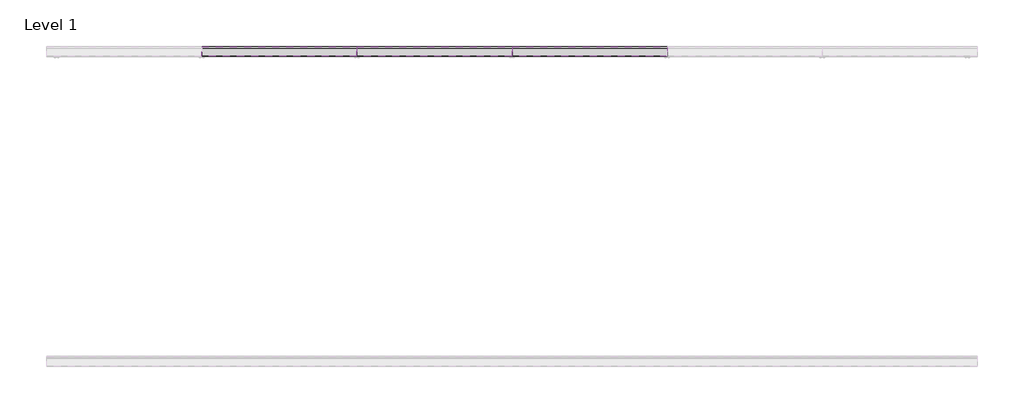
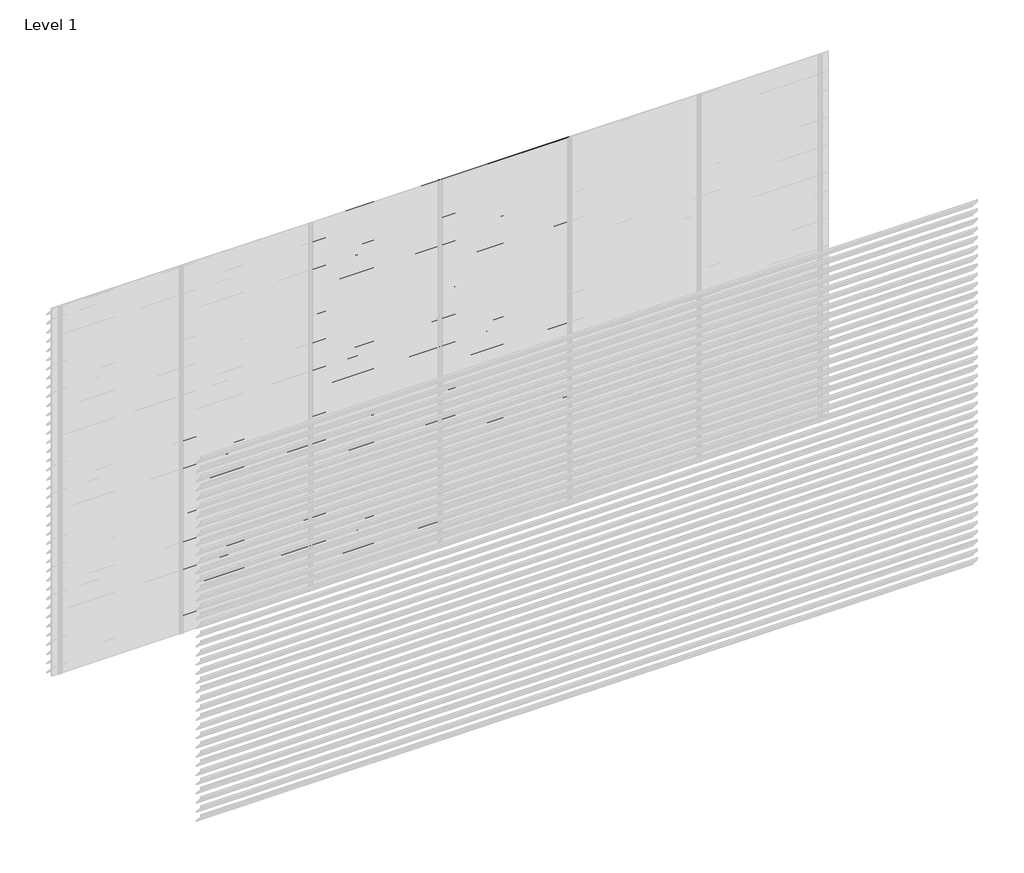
# One storey, part 34 of 35: 91 proxies.
"""IFC4 building model written with IfcOpenShell, lengths in millimetres."""

from ifc_helpers import new_model, si_unit, frame, origin, place, context, project, spatial, polyline, outline, extrude, element, save

model = new_model("IFC4")

# Units and contexts
model_context = context("Model", 3, world=origin())
ifc_project = project(units=[si_unit("LENGTHUNIT", "METRE", prefix="MILLI")], contexts=[model_context])

# Site, building, storey
site = spatial("IfcSite", under=ifc_project)
building = spatial("IfcBuilding", under=site)
storey = spatial("IfcBuildingStorey", under=building, Name="Level 1", Elevation=0.0)

# Proxies
placement = place(None, origin())
element("IfcBuildingElementProxy", 1, Name="Wall Sweeps", at=placement, inside=storey, context=model_context, shape_type="SweptSolid", body=[
    extrude(outline(polyline([(3.5, 1575.0), (3.5, 1560.5463701), (65.5, 1488.9330051), (65.5, 1485.4), (64.0, 1485.4), (64.0, 1488.3738975), (2.0, 1559.9872626), (2.0, 1575.0), (3.5, 1575.0)])), frame((1000.0, 0.0, 0.0), z_axis=(1.0, 0.0, 0.0), x_axis=(0.0, 1.0, 0.0)), (0.0, 0.0, 1.0), 1000.0),
])
element("IfcBuildingElementProxy", 2, Name="Wall Sweeps", at=placement, inside=storey, context=model_context, shape_type="SweptSolid", body=[
    extrude(outline(polyline([(3.5, 1500.0), (3.5, 1485.5463701), (65.5, 1413.9330051), (65.5, 1410.4), (64.0, 1410.4), (64.0, 1413.3738975), (2.0, 1484.9872626), (2.0, 1500.0), (3.5, 1500.0)])), frame((1000.0, 0.0, 0.0), z_axis=(1.0, 0.0, 0.0), x_axis=(0.0, 1.0, 0.0)), (0.0, 0.0, 1.0), 1000.0),
])
element("IfcBuildingElementProxy", 3, Name="Wall Sweeps", at=placement, inside=storey, context=model_context, shape_type="SweptSolid", body=[
    extrude(outline(polyline([(3.5, 1425.0), (3.5, 1410.5463701), (65.5, 1338.9330051), (65.5, 1335.4), (64.0, 1335.4), (64.0, 1338.3738975), (2.0, 1409.9872626), (2.0, 1425.0), (3.5, 1425.0)])), frame((1000.0, 0.0, 0.0), z_axis=(1.0, 0.0, 0.0), x_axis=(0.0, 1.0, 0.0)), (0.0, 0.0, 1.0), 1000.0),
])
element("IfcBuildingElementProxy", 4, Name="Wall Sweeps", at=placement, inside=storey, context=model_context, shape_type="SweptSolid", body=[
    extrude(outline(polyline([(3.5, 1350.0), (3.5, 1335.5463701), (65.5, 1263.9330051), (65.5, 1260.4), (64.0, 1260.4), (64.0, 1263.3738975), (2.0, 1334.9872626), (2.0, 1350.0), (3.5, 1350.0)])), frame((1000.0, 0.0, 0.0), z_axis=(1.0, 0.0, 0.0), x_axis=(0.0, 1.0, 0.0)), (0.0, 0.0, 1.0), 1000.0),
])
element("IfcBuildingElementProxy", 5, Name="Wall Sweeps", at=placement, inside=storey, context=model_context, shape_type="SweptSolid", body=[
    extrude(outline(polyline([(3.5, 1275.0), (3.5, 1260.5463701), (65.5, 1188.9330051), (65.5, 1185.4), (64.0, 1185.4), (64.0, 1188.3738975), (2.0, 1259.9872626), (2.0, 1275.0), (3.5, 1275.0)])), frame((1000.0, 0.0, 0.0), z_axis=(1.0, 0.0, 0.0), x_axis=(0.0, 1.0, 0.0)), (0.0, 0.0, 1.0), 1000.0),
])
element("IfcBuildingElementProxy", 6, Name="Wall Sweeps", at=placement, inside=storey, context=model_context, shape_type="SweptSolid", body=[
    extrude(outline(polyline([(3.5, 1200.0), (3.5, 1185.5463701), (65.5, 1113.9330051), (65.5, 1110.4), (64.0, 1110.4), (64.0, 1113.3738975), (2.0, 1184.9872626), (2.0, 1200.0), (3.5, 1200.0)])), frame((1000.0, 0.0, 0.0), z_axis=(1.0, 0.0, 0.0), x_axis=(0.0, 1.0, 0.0)), (0.0, 0.0, 1.0), 1000.0),
])
element("IfcBuildingElementProxy", 7, Name="Wall Sweeps", at=placement, inside=storey, context=model_context, shape_type="SweptSolid", body=[
    extrude(outline(polyline([(3.5, 1125.0), (3.5, 1110.5463701), (65.5, 1038.9330051), (65.5, 1035.4), (64.0, 1035.4), (64.0, 1038.3738975), (2.0, 1109.9872626), (2.0, 1125.0), (3.5, 1125.0)])), frame((1000.0, 0.0, 0.0), z_axis=(1.0, 0.0, 0.0), x_axis=(0.0, 1.0, 0.0)), (0.0, 0.0, 1.0), 1000.0),
])
element("IfcBuildingElementProxy", 8, Name="Wall Sweeps", at=placement, inside=storey, context=model_context, shape_type="SweptSolid", body=[
    extrude(outline(polyline([(3.5, 1050.0), (3.5, 1035.5463701), (65.5, 963.9330051), (65.5, 960.4), (64.0, 960.4), (64.0, 963.3738975), (2.0, 1034.9872626), (2.0, 1050.0), (3.5, 1050.0)])), frame((1000.0, 0.0, 0.0), z_axis=(1.0, 0.0, 0.0), x_axis=(0.0, 1.0, 0.0)), (0.0, 0.0, 1.0), 1000.0),
])
element("IfcBuildingElementProxy", 9, Name="Wall Sweeps", at=placement, inside=storey, context=model_context, shape_type="SweptSolid", body=[
    extrude(outline(polyline([(3.5, 975.0), (3.5, 960.5463701), (65.5, 888.9330051), (65.5, 885.4), (64.0, 885.4), (64.0, 888.3738975), (2.0, 959.9872626), (2.0, 975.0), (3.5, 975.0)])), frame((1000.0, 0.0, 0.0), z_axis=(1.0, 0.0, 0.0), x_axis=(0.0, 1.0, 0.0)), (0.0, 0.0, 1.0), 1000.0),
])
element("IfcBuildingElementProxy", 10, Name="Wall Sweeps", at=placement, inside=storey, context=model_context, shape_type="SweptSolid", body=[
    extrude(outline(polyline([(3.5, 900.0), (3.5, 885.5463701), (65.5, 813.9330051), (65.5, 810.4), (64.0, 810.4), (64.0, 813.3738975), (2.0, 884.9872626), (2.0, 900.0), (3.5, 900.0)])), frame((1000.0, 0.0, 0.0), z_axis=(1.0, 0.0, 0.0), x_axis=(0.0, 1.0, 0.0)), (0.0, 0.0, 1.0), 1000.0),
])
element("IfcBuildingElementProxy", 11, Name="Wall Sweeps", at=placement, inside=storey, context=model_context, shape_type="SweptSolid", body=[
    extrude(outline(polyline([(3.5, 825.0), (3.5, 810.5463701), (65.5, 738.9330051), (65.5, 735.4), (64.0, 735.4), (64.0, 738.3738975), (2.0, 809.9872626), (2.0, 825.0), (3.5, 825.0)])), frame((1000.0, 0.0, 0.0), z_axis=(1.0, 0.0, 0.0), x_axis=(0.0, 1.0, 0.0)), (0.0, 0.0, 1.0), 1000.0),
])
element("IfcBuildingElementProxy", 12, Name="Wall Sweeps", at=placement, inside=storey, context=model_context, shape_type="SweptSolid", body=[
    extrude(outline(polyline([(3.5, 750.0), (3.5, 735.5463701), (65.5, 663.9330051), (65.5, 660.4), (64.0, 660.4), (64.0, 663.3738975), (2.0, 734.9872626), (2.0, 750.0), (3.5, 750.0)])), frame((1000.0, 0.0, 0.0), z_axis=(1.0, 0.0, 0.0), x_axis=(0.0, 1.0, 0.0)), (0.0, 0.0, 1.0), 1000.0),
])
element("IfcBuildingElementProxy", 13, Name="Wall Sweeps", at=placement, inside=storey, context=model_context, shape_type="SweptSolid", body=[
    extrude(outline(polyline([(3.5, 675.0), (3.5, 660.5463701), (65.5, 588.9330051), (65.5, 585.4), (64.0, 585.4), (64.0, 588.3738975), (2.0, 659.9872626), (2.0, 675.0), (3.5, 675.0)])), frame((1000.0, 0.0, 0.0), z_axis=(1.0, 0.0, 0.0), x_axis=(0.0, 1.0, 0.0)), (0.0, 0.0, 1.0), 1000.0),
])
element("IfcBuildingElementProxy", 14, Name="Wall Sweeps", at=placement, inside=storey, context=model_context, shape_type="SweptSolid", body=[
    extrude(outline(polyline([(3.5, 600.0), (3.5, 585.5463701), (65.5, 513.9330051), (65.5, 510.4), (64.0, 510.4), (64.0, 513.3738975), (2.0, 584.9872626), (2.0, 600.0), (3.5, 600.0)])), frame((1000.0, 0.0, 0.0), z_axis=(1.0, 0.0, 0.0), x_axis=(0.0, 1.0, 0.0)), (0.0, 0.0, 1.0), 1000.0),
])
element("IfcBuildingElementProxy", 15, Name="Wall Sweeps", at=placement, inside=storey, context=model_context, shape_type="SweptSolid", body=[
    extrude(outline(polyline([(3.5, 525.0), (3.5, 510.5463701), (65.5, 438.9330051), (65.5, 435.4), (64.0, 435.4), (64.0, 438.3738975), (2.0, 509.9872626), (2.0, 525.0), (3.5, 525.0)])), frame((1000.0, 0.0, 0.0), z_axis=(1.0, 0.0, 0.0), x_axis=(0.0, 1.0, 0.0)), (0.0, 0.0, 1.0), 1000.0),
])
element("IfcBuildingElementProxy", 16, Name="Wall Sweeps", at=placement, inside=storey, context=model_context, shape_type="SweptSolid", body=[
    extrude(outline(polyline([(3.5, 450.0), (3.5, 435.5463701), (65.5, 363.9330051), (65.5, 360.4), (64.0, 360.4), (64.0, 363.3738975), (2.0, 434.9872626), (2.0, 450.0), (3.5, 450.0)])), frame((1000.0, 0.0, 0.0), z_axis=(1.0, 0.0, 0.0), x_axis=(0.0, 1.0, 0.0)), (0.0, 0.0, 1.0), 1000.0),
])
element("IfcBuildingElementProxy", 17, Name="Wall Sweeps", at=placement, inside=storey, context=model_context, shape_type="SweptSolid", body=[
    extrude(outline(polyline([(3.5, 375.0), (3.5, 360.5463701), (65.5, 288.9330051), (65.5, 285.4), (64.0, 285.4), (64.0, 288.3738975), (2.0, 359.9872626), (2.0, 375.0), (3.5, 375.0)])), frame((1000.0, 0.0, 0.0), z_axis=(1.0, 0.0, 0.0), x_axis=(0.0, 1.0, 0.0)), (0.0, 0.0, 1.0), 1000.0),
])
element("IfcBuildingElementProxy", 18, Name="Wall Sweeps", at=placement, inside=storey, context=model_context, shape_type="SweptSolid", body=[
    extrude(outline(polyline([(3.5, 300.0), (3.5, 285.5463701), (65.5, 213.9330051), (65.5, 210.4), (64.0, 210.4), (64.0, 213.3738975), (2.0, 284.9872626), (2.0, 300.0), (3.5, 300.0)])), frame((1000.0, 0.0, 0.0), z_axis=(1.0, 0.0, 0.0), x_axis=(0.0, 1.0, 0.0)), (0.0, 0.0, 1.0), 1000.0),
])
element("IfcBuildingElementProxy", 19, Name="Wall Sweeps", at=placement, inside=storey, context=model_context, shape_type="SweptSolid", body=[
    extrude(outline(polyline([(3.5, 225.0), (3.5, 210.5463701), (65.5, 138.9330051), (65.5, 135.4), (64.0, 135.4), (64.0, 138.3738975), (2.0, 209.9872626), (2.0, 225.0), (3.5, 225.0)])), frame((1000.0, 0.0, 0.0), z_axis=(1.0, 0.0, 0.0), x_axis=(0.0, 1.0, 0.0)), (0.0, 0.0, 1.0), 1000.0),
])
element("IfcBuildingElementProxy", 20, Name="Wall Sweeps", at=placement, inside=storey, context=model_context, shape_type="SweptSolid", body=[
    extrude(outline(polyline([(3.5, 150.0), (3.5, 135.5463701), (65.5, 63.9330051), (65.5, 60.4), (64.0, 60.4), (64.0, 63.3738975), (2.0, 134.9872626), (2.0, 150.0), (3.5, 150.0)])), frame((1000.0, 0.0, 0.0), z_axis=(1.0, 0.0, 0.0), x_axis=(0.0, 1.0, 0.0)), (0.0, 0.0, 1.0), 1000.0),
])
element("IfcBuildingElementProxy", 21, Name="Wall Sweeps", at=placement, inside=storey, context=model_context, shape_type="SweptSolid", body=[
    extrude(outline(polyline([(3.5, 75.0), (3.5, 60.5463701), (65.5, -11.0669949), (65.5, -14.6), (64.0, -14.6), (64.0, -11.6261025), (2.0, 59.9872626), (2.0, 75.0), (3.5, 75.0)])), frame((1000.0, 0.0, 0.0), z_axis=(1.0, 0.0, 0.0), x_axis=(0.0, 1.0, 0.0)), (0.0, 0.0, 1.0), 1000.0),
])
element("IfcBuildingElementProxy", 22, Name="Wall Sweeps", at=placement, inside=storey, context=model_context, shape_type="SweptSolid", body=[
    extrude(outline(polyline([(3.5, 3000.0), (3.5, 2985.5463701), (65.5, 2913.9330051), (65.5, 2910.4), (64.0, 2910.4), (64.0, 2913.3738975), (2.0, 2984.9872626), (2.0, 3000.0), (3.5, 3000.0)])), frame((2000.0, 0.0, 0.0), z_axis=(1.0, 0.0, 0.0), x_axis=(0.0, 1.0, 0.0)), (0.0, 0.0, 1.0), 1000.0),
])
element("IfcBuildingElementProxy", 23, Name="Wall Sweeps", at=placement, inside=storey, context=model_context, shape_type="SweptSolid", body=[
    extrude(outline(polyline([(3.5, 2925.0), (3.5, 2910.5463701), (65.5, 2838.9330051), (65.5, 2835.4), (64.0, 2835.4), (64.0, 2838.3738975), (2.0, 2909.9872626), (2.0, 2925.0), (3.5, 2925.0)])), frame((2000.0, 0.0, 0.0), z_axis=(1.0, 0.0, 0.0), x_axis=(0.0, 1.0, 0.0)), (0.0, 0.0, 1.0), 1000.0),
])
element("IfcBuildingElementProxy", 24, Name="Wall Sweeps", at=placement, inside=storey, context=model_context, shape_type="SweptSolid", body=[
    extrude(outline(polyline([(3.5, 2850.0), (3.5, 2835.5463701), (65.5, 2763.9330051), (65.5, 2760.4), (64.0, 2760.4), (64.0, 2763.3738975), (2.0, 2834.9872626), (2.0, 2850.0), (3.5, 2850.0)])), frame((2000.0, 0.0, 0.0), z_axis=(1.0, 0.0, 0.0), x_axis=(0.0, 1.0, 0.0)), (0.0, 0.0, 1.0), 1000.0),
])
element("IfcBuildingElementProxy", 25, Name="Wall Sweeps", at=placement, inside=storey, context=model_context, shape_type="SweptSolid", body=[
    extrude(outline(polyline([(3.5, 2775.0), (3.5, 2760.5463701), (65.5, 2688.9330051), (65.5, 2685.4), (64.0, 2685.4), (64.0, 2688.3738975), (2.0, 2759.9872626), (2.0, 2775.0), (3.5, 2775.0)])), frame((2000.0, 0.0, 0.0), z_axis=(1.0, 0.0, 0.0), x_axis=(0.0, 1.0, 0.0)), (0.0, 0.0, 1.0), 1000.0),
])
element("IfcBuildingElementProxy", 26, Name="Wall Sweeps", at=placement, inside=storey, context=model_context, shape_type="SweptSolid", body=[
    extrude(outline(polyline([(3.5, 2700.0), (3.5, 2685.5463701), (65.5, 2613.9330051), (65.5, 2610.4), (64.0, 2610.4), (64.0, 2613.3738975), (2.0, 2684.9872626), (2.0, 2700.0), (3.5, 2700.0)])), frame((2000.0, 0.0, 0.0), z_axis=(1.0, 0.0, 0.0), x_axis=(0.0, 1.0, 0.0)), (0.0, 0.0, 1.0), 1000.0),
])
element("IfcBuildingElementProxy", 27, Name="Wall Sweeps", at=placement, inside=storey, context=model_context, shape_type="SweptSolid", body=[
    extrude(outline(polyline([(3.5, 2625.0), (3.5, 2610.5463701), (65.5, 2538.9330051), (65.5, 2535.4), (64.0, 2535.4), (64.0, 2538.3738975), (2.0, 2609.9872626), (2.0, 2625.0), (3.5, 2625.0)])), frame((2000.0, 0.0, 0.0), z_axis=(1.0, 0.0, 0.0), x_axis=(0.0, 1.0, 0.0)), (0.0, 0.0, 1.0), 1000.0),
])
element("IfcBuildingElementProxy", 28, Name="Wall Sweeps", at=placement, inside=storey, context=model_context, shape_type="SweptSolid", body=[
    extrude(outline(polyline([(3.5, 2550.0), (3.5, 2535.5463701), (65.5, 2463.9330051), (65.5, 2460.4), (64.0, 2460.4), (64.0, 2463.3738975), (2.0, 2534.9872626), (2.0, 2550.0), (3.5, 2550.0)])), frame((2000.0, 0.0, 0.0), z_axis=(1.0, 0.0, 0.0), x_axis=(0.0, 1.0, 0.0)), (0.0, 0.0, 1.0), 1000.0),
])
element("IfcBuildingElementProxy", 29, Name="Wall Sweeps", at=placement, inside=storey, context=model_context, shape_type="SweptSolid", body=[
    extrude(outline(polyline([(3.5, 2475.0), (3.5, 2460.5463701), (65.5, 2388.9330051), (65.5, 2385.4), (64.0, 2385.4), (64.0, 2388.3738975), (2.0, 2459.9872626), (2.0, 2475.0), (3.5, 2475.0)])), frame((2000.0, 0.0, 0.0), z_axis=(1.0, 0.0, 0.0), x_axis=(0.0, 1.0, 0.0)), (0.0, 0.0, 1.0), 1000.0),
])
element("IfcBuildingElementProxy", 30, Name="Wall Sweeps", at=placement, inside=storey, context=model_context, shape_type="SweptSolid", body=[
    extrude(outline(polyline([(3.5, 2400.0), (3.5, 2385.5463701), (65.5, 2313.9330051), (65.5, 2310.4), (64.0, 2310.4), (64.0, 2313.3738975), (2.0, 2384.9872626), (2.0, 2400.0), (3.5, 2400.0)])), frame((2000.0, 0.0, 0.0), z_axis=(1.0, 0.0, 0.0), x_axis=(0.0, 1.0, 0.0)), (0.0, 0.0, 1.0), 1000.0),
])
element("IfcBuildingElementProxy", 31, Name="Wall Sweeps", at=placement, inside=storey, context=model_context, shape_type="SweptSolid", body=[
    extrude(outline(polyline([(3.5, 2325.0), (3.5, 2310.5463701), (65.5, 2238.9330051), (65.5, 2235.4), (64.0, 2235.4), (64.0, 2238.3738975), (2.0, 2309.9872626), (2.0, 2325.0), (3.5, 2325.0)])), frame((2000.0, 0.0, 0.0), z_axis=(1.0, 0.0, 0.0), x_axis=(0.0, 1.0, 0.0)), (0.0, 0.0, 1.0), 1000.0),
])
element("IfcBuildingElementProxy", 32, Name="Wall Sweeps", at=placement, inside=storey, context=model_context, shape_type="SweptSolid", body=[
    extrude(outline(polyline([(3.5, 2250.0), (3.5, 2235.5463701), (65.5, 2163.9330051), (65.5, 2160.4), (64.0, 2160.4), (64.0, 2163.3738975), (2.0, 2234.9872626), (2.0, 2250.0), (3.5, 2250.0)])), frame((2000.0, 0.0, 0.0), z_axis=(1.0, 0.0, 0.0), x_axis=(0.0, 1.0, 0.0)), (0.0, 0.0, 1.0), 1000.0),
])
element("IfcBuildingElementProxy", 33, Name="Wall Sweeps", at=placement, inside=storey, context=model_context, shape_type="SweptSolid", body=[
    extrude(outline(polyline([(3.5, 2175.0), (3.5, 2160.5463701), (65.5, 2088.9330051), (65.5, 2085.4), (64.0, 2085.4), (64.0, 2088.3738975), (2.0, 2159.9872626), (2.0, 2175.0), (3.5, 2175.0)])), frame((2000.0, 0.0, 0.0), z_axis=(1.0, 0.0, 0.0), x_axis=(0.0, 1.0, 0.0)), (0.0, 0.0, 1.0), 1000.0),
])
element("IfcBuildingElementProxy", 34, Name="Wall Sweeps", at=placement, inside=storey, context=model_context, shape_type="SweptSolid", body=[
    extrude(outline(polyline([(3.5, 2100.0), (3.5, 2085.5463701), (65.5, 2013.9330051), (65.5, 2010.4), (64.0, 2010.4), (64.0, 2013.3738975), (2.0, 2084.9872626), (2.0, 2100.0), (3.5, 2100.0)])), frame((2000.0, 0.0, 0.0), z_axis=(1.0, 0.0, 0.0), x_axis=(0.0, 1.0, 0.0)), (0.0, 0.0, 1.0), 1000.0),
])
element("IfcBuildingElementProxy", 35, Name="Wall Sweeps", at=placement, inside=storey, context=model_context, shape_type="SweptSolid", body=[
    extrude(outline(polyline([(3.5, 2025.0), (3.5, 2010.5463701), (65.5, 1938.9330051), (65.5, 1935.4), (64.0, 1935.4), (64.0, 1938.3738975), (2.0, 2009.9872626), (2.0, 2025.0), (3.5, 2025.0)])), frame((2000.0, 0.0, 0.0), z_axis=(1.0, 0.0, 0.0), x_axis=(0.0, 1.0, 0.0)), (0.0, 0.0, 1.0), 1000.0),
])
element("IfcBuildingElementProxy", 36, Name="Wall Sweeps", at=placement, inside=storey, context=model_context, shape_type="SweptSolid", body=[
    extrude(outline(polyline([(3.5, 1950.0), (3.5, 1935.5463701), (65.5, 1863.9330051), (65.5, 1860.4), (64.0, 1860.4), (64.0, 1863.3738975), (2.0, 1934.9872626), (2.0, 1950.0), (3.5, 1950.0)])), frame((2000.0, 0.0, 0.0), z_axis=(1.0, 0.0, 0.0), x_axis=(0.0, 1.0, 0.0)), (0.0, 0.0, 1.0), 1000.0),
])
element("IfcBuildingElementProxy", 37, Name="Wall Sweeps", at=placement, inside=storey, context=model_context, shape_type="SweptSolid", body=[
    extrude(outline(polyline([(3.5, 1875.0), (3.5, 1860.5463701), (65.5, 1788.9330051), (65.5, 1785.4), (64.0, 1785.4), (64.0, 1788.3738975), (2.0, 1859.9872626), (2.0, 1875.0), (3.5, 1875.0)])), frame((2000.0, 0.0, 0.0), z_axis=(1.0, 0.0, 0.0), x_axis=(0.0, 1.0, 0.0)), (0.0, 0.0, 1.0), 1000.0),
])
element("IfcBuildingElementProxy", 38, Name="Wall Sweeps", at=placement, inside=storey, context=model_context, shape_type="SweptSolid", body=[
    extrude(outline(polyline([(3.5, 1800.0), (3.5, 1785.5463701), (65.5, 1713.9330051), (65.5, 1710.4), (64.0, 1710.4), (64.0, 1713.3738975), (2.0, 1784.9872626), (2.0, 1800.0), (3.5, 1800.0)])), frame((2000.0, 0.0, 0.0), z_axis=(1.0, 0.0, 0.0), x_axis=(0.0, 1.0, 0.0)), (0.0, 0.0, 1.0), 1000.0),
])
element("IfcBuildingElementProxy", 39, Name="Wall Sweeps", at=placement, inside=storey, context=model_context, shape_type="SweptSolid", body=[
    extrude(outline(polyline([(3.5, 1725.0), (3.5, 1710.5463701), (65.5, 1638.9330051), (65.5, 1635.4), (64.0, 1635.4), (64.0, 1638.3738975), (2.0, 1709.9872626), (2.0, 1725.0), (3.5, 1725.0)])), frame((2000.0, 0.0, 0.0), z_axis=(1.0, 0.0, 0.0), x_axis=(0.0, 1.0, 0.0)), (0.0, 0.0, 1.0), 1000.0),
])
element("IfcBuildingElementProxy", 40, Name="Wall Sweeps", at=placement, inside=storey, context=model_context, shape_type="SweptSolid", body=[
    extrude(outline(polyline([(3.5, 1650.0), (3.5, 1635.5463701), (65.5, 1563.9330051), (65.5, 1560.4), (64.0, 1560.4), (64.0, 1563.3738975), (2.0, 1634.9872626), (2.0, 1650.0), (3.5, 1650.0)])), frame((2000.0, 0.0, 0.0), z_axis=(1.0, 0.0, 0.0), x_axis=(0.0, 1.0, 0.0)), (0.0, 0.0, 1.0), 1000.0),
])
element("IfcBuildingElementProxy", 41, Name="Wall Sweeps", at=placement, inside=storey, context=model_context, shape_type="SweptSolid", body=[
    extrude(outline(polyline([(3.5, 1575.0), (3.5, 1560.5463701), (65.5, 1488.9330051), (65.5, 1485.4), (64.0, 1485.4), (64.0, 1488.3738975), (2.0, 1559.9872626), (2.0, 1575.0), (3.5, 1575.0)])), frame((2000.0, 0.0, 0.0), z_axis=(1.0, 0.0, 0.0), x_axis=(0.0, 1.0, 0.0)), (0.0, 0.0, 1.0), 1000.0),
])
element("IfcBuildingElementProxy", 42, Name="Wall Sweeps", at=placement, inside=storey, context=model_context, shape_type="SweptSolid", body=[
    extrude(outline(polyline([(3.5, 1500.0), (3.5, 1485.5463701), (65.5, 1413.9330051), (65.5, 1410.4), (64.0, 1410.4), (64.0, 1413.3738975), (2.0, 1484.9872626), (2.0, 1500.0), (3.5, 1500.0)])), frame((2000.0, 0.0, 0.0), z_axis=(1.0, 0.0, 0.0), x_axis=(0.0, 1.0, 0.0)), (0.0, 0.0, 1.0), 1000.0),
])
element("IfcBuildingElementProxy", 43, Name="Wall Sweeps", at=placement, inside=storey, context=model_context, shape_type="SweptSolid", body=[
    extrude(outline(polyline([(3.5, 1425.0), (3.5, 1410.5463701), (65.5, 1338.9330051), (65.5, 1335.4), (64.0, 1335.4), (64.0, 1338.3738975), (2.0, 1409.9872626), (2.0, 1425.0), (3.5, 1425.0)])), frame((2000.0, 0.0, 0.0), z_axis=(1.0, 0.0, 0.0), x_axis=(0.0, 1.0, 0.0)), (0.0, 0.0, 1.0), 1000.0),
])
element("IfcBuildingElementProxy", 44, Name="Wall Sweeps", at=placement, inside=storey, context=model_context, shape_type="SweptSolid", body=[
    extrude(outline(polyline([(3.5, 1350.0), (3.5, 1335.5463701), (65.5, 1263.9330051), (65.5, 1260.4), (64.0, 1260.4), (64.0, 1263.3738975), (2.0, 1334.9872626), (2.0, 1350.0), (3.5, 1350.0)])), frame((2000.0, 0.0, 0.0), z_axis=(1.0, 0.0, 0.0), x_axis=(0.0, 1.0, 0.0)), (0.0, 0.0, 1.0), 1000.0),
])
element("IfcBuildingElementProxy", 45, Name="Wall Sweeps", at=placement, inside=storey, context=model_context, shape_type="SweptSolid", body=[
    extrude(outline(polyline([(3.5, 1275.0), (3.5, 1260.5463701), (65.5, 1188.9330051), (65.5, 1185.4), (64.0, 1185.4), (64.0, 1188.3738975), (2.0, 1259.9872626), (2.0, 1275.0), (3.5, 1275.0)])), frame((2000.0, 0.0, 0.0), z_axis=(1.0, 0.0, 0.0), x_axis=(0.0, 1.0, 0.0)), (0.0, 0.0, 1.0), 1000.0),
])
element("IfcBuildingElementProxy", 46, Name="Wall Sweeps", at=placement, inside=storey, context=model_context, shape_type="SweptSolid", body=[
    extrude(outline(polyline([(3.5, 1200.0), (3.5, 1185.5463701), (65.5, 1113.9330051), (65.5, 1110.4), (64.0, 1110.4), (64.0, 1113.3738975), (2.0, 1184.9872626), (2.0, 1200.0), (3.5, 1200.0)])), frame((2000.0, 0.0, 0.0), z_axis=(1.0, 0.0, 0.0), x_axis=(0.0, 1.0, 0.0)), (0.0, 0.0, 1.0), 1000.0),
])
element("IfcBuildingElementProxy", 47, Name="Wall Sweeps", at=placement, inside=storey, context=model_context, shape_type="SweptSolid", body=[
    extrude(outline(polyline([(3.5, 1125.0), (3.5, 1110.5463701), (65.5, 1038.9330051), (65.5, 1035.4), (64.0, 1035.4), (64.0, 1038.3738975), (2.0, 1109.9872626), (2.0, 1125.0), (3.5, 1125.0)])), frame((2000.0, 0.0, 0.0), z_axis=(1.0, 0.0, 0.0), x_axis=(0.0, 1.0, 0.0)), (0.0, 0.0, 1.0), 1000.0),
])
element("IfcBuildingElementProxy", 48, Name="Wall Sweeps", at=placement, inside=storey, context=model_context, shape_type="SweptSolid", body=[
    extrude(outline(polyline([(3.5, 1050.0), (3.5, 1035.5463701), (65.5, 963.9330051), (65.5, 960.4), (64.0, 960.4), (64.0, 963.3738975), (2.0, 1034.9872626), (2.0, 1050.0), (3.5, 1050.0)])), frame((2000.0, 0.0, 0.0), z_axis=(1.0, 0.0, 0.0), x_axis=(0.0, 1.0, 0.0)), (0.0, 0.0, 1.0), 1000.0),
])
element("IfcBuildingElementProxy", 49, Name="Wall Sweeps", at=placement, inside=storey, context=model_context, shape_type="SweptSolid", body=[
    extrude(outline(polyline([(3.5, 975.0), (3.5, 960.5463701), (65.5, 888.9330051), (65.5, 885.4), (64.0, 885.4), (64.0, 888.3738975), (2.0, 959.9872626), (2.0, 975.0), (3.5, 975.0)])), frame((2000.0, 0.0, 0.0), z_axis=(1.0, 0.0, 0.0), x_axis=(0.0, 1.0, 0.0)), (0.0, 0.0, 1.0), 1000.0),
])
element("IfcBuildingElementProxy", 50, Name="Wall Sweeps", at=placement, inside=storey, context=model_context, shape_type="SweptSolid", body=[
    extrude(outline(polyline([(3.5, 900.0), (3.5, 885.5463701), (65.5, 813.9330051), (65.5, 810.4), (64.0, 810.4), (64.0, 813.3738975), (2.0, 884.9872626), (2.0, 900.0), (3.5, 900.0)])), frame((2000.0, 0.0, 0.0), z_axis=(1.0, 0.0, 0.0), x_axis=(0.0, 1.0, 0.0)), (0.0, 0.0, 1.0), 1000.0),
])
element("IfcBuildingElementProxy", 51, Name="Wall Sweeps", at=placement, inside=storey, context=model_context, shape_type="SweptSolid", body=[
    extrude(outline(polyline([(3.5, 825.0), (3.5, 810.5463701), (65.5, 738.9330051), (65.5, 735.4), (64.0, 735.4), (64.0, 738.3738975), (2.0, 809.9872626), (2.0, 825.0), (3.5, 825.0)])), frame((2000.0, 0.0, 0.0), z_axis=(1.0, 0.0, 0.0), x_axis=(0.0, 1.0, 0.0)), (0.0, 0.0, 1.0), 1000.0),
])
element("IfcBuildingElementProxy", 52, Name="Wall Sweeps", at=placement, inside=storey, context=model_context, shape_type="SweptSolid", body=[
    extrude(outline(polyline([(3.5, 750.0), (3.5, 735.5463701), (65.5, 663.9330051), (65.5, 660.4), (64.0, 660.4), (64.0, 663.3738975), (2.0, 734.9872626), (2.0, 750.0), (3.5, 750.0)])), frame((2000.0, 0.0, 0.0), z_axis=(1.0, 0.0, 0.0), x_axis=(0.0, 1.0, 0.0)), (0.0, 0.0, 1.0), 1000.0),
])
element("IfcBuildingElementProxy", 53, Name="Wall Sweeps", at=placement, inside=storey, context=model_context, shape_type="SweptSolid", body=[
    extrude(outline(polyline([(3.5, 675.0), (3.5, 660.5463701), (65.5, 588.9330051), (65.5, 585.4), (64.0, 585.4), (64.0, 588.3738975), (2.0, 659.9872626), (2.0, 675.0), (3.5, 675.0)])), frame((2000.0, 0.0, 0.0), z_axis=(1.0, 0.0, 0.0), x_axis=(0.0, 1.0, 0.0)), (0.0, 0.0, 1.0), 1000.0),
])
element("IfcBuildingElementProxy", 54, Name="Wall Sweeps", at=placement, inside=storey, context=model_context, shape_type="SweptSolid", body=[
    extrude(outline(polyline([(3.5, 600.0), (3.5, 585.5463701), (65.5, 513.9330051), (65.5, 510.4), (64.0, 510.4), (64.0, 513.3738975), (2.0, 584.9872626), (2.0, 600.0), (3.5, 600.0)])), frame((2000.0, 0.0, 0.0), z_axis=(1.0, 0.0, 0.0), x_axis=(0.0, 1.0, 0.0)), (0.0, 0.0, 1.0), 1000.0),
])
element("IfcBuildingElementProxy", 55, Name="Wall Sweeps", at=placement, inside=storey, context=model_context, shape_type="SweptSolid", body=[
    extrude(outline(polyline([(3.5, 525.0), (3.5, 510.5463701), (65.5, 438.9330051), (65.5, 435.4), (64.0, 435.4), (64.0, 438.3738975), (2.0, 509.9872626), (2.0, 525.0), (3.5, 525.0)])), frame((2000.0, 0.0, 0.0), z_axis=(1.0, 0.0, 0.0), x_axis=(0.0, 1.0, 0.0)), (0.0, 0.0, 1.0), 1000.0),
])
element("IfcBuildingElementProxy", 56, Name="Wall Sweeps", at=placement, inside=storey, context=model_context, shape_type="SweptSolid", body=[
    extrude(outline(polyline([(3.5, 450.0), (3.5, 435.5463701), (65.5, 363.9330051), (65.5, 360.4), (64.0, 360.4), (64.0, 363.3738975), (2.0, 434.9872626), (2.0, 450.0), (3.5, 450.0)])), frame((2000.0, 0.0, 0.0), z_axis=(1.0, 0.0, 0.0), x_axis=(0.0, 1.0, 0.0)), (0.0, 0.0, 1.0), 1000.0),
])
element("IfcBuildingElementProxy", 57, Name="Wall Sweeps", at=placement, inside=storey, context=model_context, shape_type="SweptSolid", body=[
    extrude(outline(polyline([(3.5, 375.0), (3.5, 360.5463701), (65.5, 288.9330051), (65.5, 285.4), (64.0, 285.4), (64.0, 288.3738975), (2.0, 359.9872626), (2.0, 375.0), (3.5, 375.0)])), frame((2000.0, 0.0, 0.0), z_axis=(1.0, 0.0, 0.0), x_axis=(0.0, 1.0, 0.0)), (0.0, 0.0, 1.0), 1000.0),
])
element("IfcBuildingElementProxy", 58, Name="Wall Sweeps", at=placement, inside=storey, context=model_context, shape_type="SweptSolid", body=[
    extrude(outline(polyline([(3.5, 300.0), (3.5, 285.5463701), (65.5, 213.9330051), (65.5, 210.4), (64.0, 210.4), (64.0, 213.3738975), (2.0, 284.9872626), (2.0, 300.0), (3.5, 300.0)])), frame((2000.0, 0.0, 0.0), z_axis=(1.0, 0.0, 0.0), x_axis=(0.0, 1.0, 0.0)), (0.0, 0.0, 1.0), 1000.0),
])
element("IfcBuildingElementProxy", 59, Name="Wall Sweeps", at=placement, inside=storey, context=model_context, shape_type="SweptSolid", body=[
    extrude(outline(polyline([(3.5, 225.0), (3.5, 210.5463701), (65.5, 138.9330051), (65.5, 135.4), (64.0, 135.4), (64.0, 138.3738975), (2.0, 209.9872626), (2.0, 225.0), (3.5, 225.0)])), frame((2000.0, 0.0, 0.0), z_axis=(1.0, 0.0, 0.0), x_axis=(0.0, 1.0, 0.0)), (0.0, 0.0, 1.0), 1000.0),
])
element("IfcBuildingElementProxy", 60, Name="Wall Sweeps", at=placement, inside=storey, context=model_context, shape_type="SweptSolid", body=[
    extrude(outline(polyline([(3.5, 150.0), (3.5, 135.5463701), (65.5, 63.9330051), (65.5, 60.4), (64.0, 60.4), (64.0, 63.3738975), (2.0, 134.9872626), (2.0, 150.0), (3.5, 150.0)])), frame((2000.0, 0.0, 0.0), z_axis=(1.0, 0.0, 0.0), x_axis=(0.0, 1.0, 0.0)), (0.0, 0.0, 1.0), 1000.0),
])
element("IfcBuildingElementProxy", 61, Name="Wall Sweeps", at=placement, inside=storey, context=model_context, shape_type="SweptSolid", body=[
    extrude(outline(polyline([(3.5, 75.0), (3.5, 60.5463701), (65.5, -11.0669949), (65.5, -14.6), (64.0, -14.6), (64.0, -11.6261025), (2.0, 59.9872626), (2.0, 75.0), (3.5, 75.0)])), frame((2000.0, 0.0, 0.0), z_axis=(1.0, 0.0, 0.0), x_axis=(0.0, 1.0, 0.0)), (0.0, 0.0, 1.0), 1000.0),
])
element("IfcBuildingElementProxy", 62, Name="Wall Sweeps", at=placement, inside=storey, context=model_context, shape_type="SweptSolid", body=[
    extrude(outline(polyline([(3.5, 3000.0), (3.5, 2985.5463701), (65.5, 2913.9330051), (65.5, 2910.4), (64.0, 2910.4), (64.0, 2913.3738975), (2.0, 2984.9872626), (2.0, 3000.0), (3.5, 3000.0)])), frame((3000.0, 0.0, 0.0), z_axis=(1.0, 0.0, 0.0), x_axis=(0.0, 1.0, 0.0)), (0.0, 0.0, 1.0), 1000.0),
])
element("IfcBuildingElementProxy", 63, Name="Wall Sweeps", at=placement, inside=storey, context=model_context, shape_type="SweptSolid", body=[
    extrude(outline(polyline([(3.5, 2925.0), (3.5, 2910.5463701), (65.5, 2838.9330051), (65.5, 2835.4), (64.0, 2835.4), (64.0, 2838.3738975), (2.0, 2909.9872626), (2.0, 2925.0), (3.5, 2925.0)])), frame((3000.0, 0.0, 0.0), z_axis=(1.0, 0.0, 0.0), x_axis=(0.0, 1.0, 0.0)), (0.0, 0.0, 1.0), 1000.0),
])
element("IfcBuildingElementProxy", 64, Name="Wall Sweeps", at=placement, inside=storey, context=model_context, shape_type="SweptSolid", body=[
    extrude(outline(polyline([(3.5, 2850.0), (3.5, 2835.5463701), (65.5, 2763.9330051), (65.5, 2760.4), (64.0, 2760.4), (64.0, 2763.3738975), (2.0, 2834.9872626), (2.0, 2850.0), (3.5, 2850.0)])), frame((3000.0, 0.0, 0.0), z_axis=(1.0, 0.0, 0.0), x_axis=(0.0, 1.0, 0.0)), (0.0, 0.0, 1.0), 1000.0),
])
element("IfcBuildingElementProxy", 65, Name="Wall Sweeps", at=placement, inside=storey, context=model_context, shape_type="SweptSolid", body=[
    extrude(outline(polyline([(3.5, 2775.0), (3.5, 2760.5463701), (65.5, 2688.9330051), (65.5, 2685.4), (64.0, 2685.4), (64.0, 2688.3738975), (2.0, 2759.9872626), (2.0, 2775.0), (3.5, 2775.0)])), frame((3000.0, 0.0, 0.0), z_axis=(1.0, 0.0, 0.0), x_axis=(0.0, 1.0, 0.0)), (0.0, 0.0, 1.0), 1000.0),
])
element("IfcBuildingElementProxy", 66, Name="Wall Sweeps", at=placement, inside=storey, context=model_context, shape_type="SweptSolid", body=[
    extrude(outline(polyline([(3.5, 2700.0), (3.5, 2685.5463701), (65.5, 2613.9330051), (65.5, 2610.4), (64.0, 2610.4), (64.0, 2613.3738975), (2.0, 2684.9872626), (2.0, 2700.0), (3.5, 2700.0)])), frame((3000.0, 0.0, 0.0), z_axis=(1.0, 0.0, 0.0), x_axis=(0.0, 1.0, 0.0)), (0.0, 0.0, 1.0), 1000.0),
])
element("IfcBuildingElementProxy", 67, Name="Wall Sweeps", at=placement, inside=storey, context=model_context, shape_type="SweptSolid", body=[
    extrude(outline(polyline([(3.5, 2625.0), (3.5, 2610.5463701), (65.5, 2538.9330051), (65.5, 2535.4), (64.0, 2535.4), (64.0, 2538.3738975), (2.0, 2609.9872626), (2.0, 2625.0), (3.5, 2625.0)])), frame((3000.0, 0.0, 0.0), z_axis=(1.0, 0.0, 0.0), x_axis=(0.0, 1.0, 0.0)), (0.0, 0.0, 1.0), 1000.0),
])
element("IfcBuildingElementProxy", 68, Name="Wall Sweeps", at=placement, inside=storey, context=model_context, shape_type="SweptSolid", body=[
    extrude(outline(polyline([(3.5, 2550.0), (3.5, 2535.5463701), (65.5, 2463.9330051), (65.5, 2460.4), (64.0, 2460.4), (64.0, 2463.3738975), (2.0, 2534.9872626), (2.0, 2550.0), (3.5, 2550.0)])), frame((3000.0, 0.0, 0.0), z_axis=(1.0, 0.0, 0.0), x_axis=(0.0, 1.0, 0.0)), (0.0, 0.0, 1.0), 1000.0),
])
element("IfcBuildingElementProxy", 69, Name="Wall Sweeps", at=placement, inside=storey, context=model_context, shape_type="SweptSolid", body=[
    extrude(outline(polyline([(3.5, 2475.0), (3.5, 2460.5463701), (65.5, 2388.9330051), (65.5, 2385.4), (64.0, 2385.4), (64.0, 2388.3738975), (2.0, 2459.9872626), (2.0, 2475.0), (3.5, 2475.0)])), frame((3000.0, 0.0, 0.0), z_axis=(1.0, 0.0, 0.0), x_axis=(0.0, 1.0, 0.0)), (0.0, 0.0, 1.0), 1000.0),
])
element("IfcBuildingElementProxy", 70, Name="Wall Sweeps", at=placement, inside=storey, context=model_context, shape_type="SweptSolid", body=[
    extrude(outline(polyline([(3.5, 2400.0), (3.5, 2385.5463701), (65.5, 2313.9330051), (65.5, 2310.4), (64.0, 2310.4), (64.0, 2313.3738975), (2.0, 2384.9872626), (2.0, 2400.0), (3.5, 2400.0)])), frame((3000.0, 0.0, 0.0), z_axis=(1.0, 0.0, 0.0), x_axis=(0.0, 1.0, 0.0)), (0.0, 0.0, 1.0), 1000.0),
])
element("IfcBuildingElementProxy", 71, Name="Wall Sweeps", at=placement, inside=storey, context=model_context, shape_type="SweptSolid", body=[
    extrude(outline(polyline([(3.5, 2325.0), (3.5, 2310.5463701), (65.5, 2238.9330051), (65.5, 2235.4), (64.0, 2235.4), (64.0, 2238.3738975), (2.0, 2309.9872626), (2.0, 2325.0), (3.5, 2325.0)])), frame((3000.0, 0.0, 0.0), z_axis=(1.0, 0.0, 0.0), x_axis=(0.0, 1.0, 0.0)), (0.0, 0.0, 1.0), 1000.0),
])
element("IfcBuildingElementProxy", 72, Name="Wall Sweeps", at=placement, inside=storey, context=model_context, shape_type="SweptSolid", body=[
    extrude(outline(polyline([(3.5, 2250.0), (3.5, 2235.5463701), (65.5, 2163.9330051), (65.5, 2160.4), (64.0, 2160.4), (64.0, 2163.3738975), (2.0, 2234.9872626), (2.0, 2250.0), (3.5, 2250.0)])), frame((3000.0, 0.0, 0.0), z_axis=(1.0, 0.0, 0.0), x_axis=(0.0, 1.0, 0.0)), (0.0, 0.0, 1.0), 1000.0),
])
element("IfcBuildingElementProxy", 73, Name="Wall Sweeps", at=placement, inside=storey, context=model_context, shape_type="SweptSolid", body=[
    extrude(outline(polyline([(3.5, 2175.0), (3.5, 2160.5463701), (65.5, 2088.9330051), (65.5, 2085.4), (64.0, 2085.4), (64.0, 2088.3738975), (2.0, 2159.9872626), (2.0, 2175.0), (3.5, 2175.0)])), frame((3000.0, 0.0, 0.0), z_axis=(1.0, 0.0, 0.0), x_axis=(0.0, 1.0, 0.0)), (0.0, 0.0, 1.0), 1000.0),
])
element("IfcBuildingElementProxy", 74, Name="Wall Sweeps", at=placement, inside=storey, context=model_context, shape_type="SweptSolid", body=[
    extrude(outline(polyline([(3.5, 2100.0), (3.5, 2085.5463701), (65.5, 2013.9330051), (65.5, 2010.4), (64.0, 2010.4), (64.0, 2013.3738975), (2.0, 2084.9872626), (2.0, 2100.0), (3.5, 2100.0)])), frame((3000.0, 0.0, 0.0), z_axis=(1.0, 0.0, 0.0), x_axis=(0.0, 1.0, 0.0)), (0.0, 0.0, 1.0), 1000.0),
])
element("IfcBuildingElementProxy", 75, Name="Wall Sweeps", at=placement, inside=storey, context=model_context, shape_type="SweptSolid", body=[
    extrude(outline(polyline([(3.5, 2025.0), (3.5, 2010.5463701), (65.5, 1938.9330051), (65.5, 1935.4), (64.0, 1935.4), (64.0, 1938.3738975), (2.0, 2009.9872626), (2.0, 2025.0), (3.5, 2025.0)])), frame((3000.0, 0.0, 0.0), z_axis=(1.0, 0.0, 0.0), x_axis=(0.0, 1.0, 0.0)), (0.0, 0.0, 1.0), 1000.0),
])
element("IfcBuildingElementProxy", 76, Name="Wall Sweeps", at=placement, inside=storey, context=model_context, shape_type="SweptSolid", body=[
    extrude(outline(polyline([(3.5, 1950.0), (3.5, 1935.5463701), (65.5, 1863.9330051), (65.5, 1860.4), (64.0, 1860.4), (64.0, 1863.3738975), (2.0, 1934.9872626), (2.0, 1950.0), (3.5, 1950.0)])), frame((3000.0, 0.0, 0.0), z_axis=(1.0, 0.0, 0.0), x_axis=(0.0, 1.0, 0.0)), (0.0, 0.0, 1.0), 1000.0),
])
element("IfcBuildingElementProxy", 77, Name="Wall Sweeps", at=placement, inside=storey, context=model_context, shape_type="SweptSolid", body=[
    extrude(outline(polyline([(3.5, 1875.0), (3.5, 1860.5463701), (65.5, 1788.9330051), (65.5, 1785.4), (64.0, 1785.4), (64.0, 1788.3738975), (2.0, 1859.9872626), (2.0, 1875.0), (3.5, 1875.0)])), frame((3000.0, 0.0, 0.0), z_axis=(1.0, 0.0, 0.0), x_axis=(0.0, 1.0, 0.0)), (0.0, 0.0, 1.0), 1000.0),
])
element("IfcBuildingElementProxy", 78, Name="Wall Sweeps", at=placement, inside=storey, context=model_context, shape_type="SweptSolid", body=[
    extrude(outline(polyline([(3.5, 1800.0), (3.5, 1785.5463701), (65.5, 1713.9330051), (65.5, 1710.4), (64.0, 1710.4), (64.0, 1713.3738975), (2.0, 1784.9872626), (2.0, 1800.0), (3.5, 1800.0)])), frame((3000.0, 0.0, 0.0), z_axis=(1.0, 0.0, 0.0), x_axis=(0.0, 1.0, 0.0)), (0.0, 0.0, 1.0), 1000.0),
])
element("IfcBuildingElementProxy", 79, Name="Wall Sweeps", at=placement, inside=storey, context=model_context, shape_type="SweptSolid", body=[
    extrude(outline(polyline([(3.5, 1725.0), (3.5, 1710.5463701), (65.5, 1638.9330051), (65.5, 1635.4), (64.0, 1635.4), (64.0, 1638.3738975), (2.0, 1709.9872626), (2.0, 1725.0), (3.5, 1725.0)])), frame((3000.0, 0.0, 0.0), z_axis=(1.0, 0.0, 0.0), x_axis=(0.0, 1.0, 0.0)), (0.0, 0.0, 1.0), 1000.0),
])
element("IfcBuildingElementProxy", 80, Name="Wall Sweeps", at=placement, inside=storey, context=model_context, shape_type="SweptSolid", body=[
    extrude(outline(polyline([(3.5, 1650.0), (3.5, 1635.5463701), (65.5, 1563.9330051), (65.5, 1560.4), (64.0, 1560.4), (64.0, 1563.3738975), (2.0, 1634.9872626), (2.0, 1650.0), (3.5, 1650.0)])), frame((3000.0, 0.0, 0.0), z_axis=(1.0, 0.0, 0.0), x_axis=(0.0, 1.0, 0.0)), (0.0, 0.0, 1.0), 1000.0),
])
element("IfcBuildingElementProxy", 81, Name="Wall Sweeps", at=placement, inside=storey, context=model_context, shape_type="SweptSolid", body=[
    extrude(outline(polyline([(3.5, 1575.0), (3.5, 1560.5463701), (65.5, 1488.9330051), (65.5, 1485.4), (64.0, 1485.4), (64.0, 1488.3738975), (2.0, 1559.9872626), (2.0, 1575.0), (3.5, 1575.0)])), frame((3000.0, 0.0, 0.0), z_axis=(1.0, 0.0, 0.0), x_axis=(0.0, 1.0, 0.0)), (0.0, 0.0, 1.0), 1000.0),
])
element("IfcBuildingElementProxy", 82, Name="Wall Sweeps", at=placement, inside=storey, context=model_context, shape_type="SweptSolid", body=[
    extrude(outline(polyline([(3.5, 1500.0), (3.5, 1485.5463701), (65.5, 1413.9330051), (65.5, 1410.4), (64.0, 1410.4), (64.0, 1413.3738975), (2.0, 1484.9872626), (2.0, 1500.0), (3.5, 1500.0)])), frame((3000.0, 0.0, 0.0), z_axis=(1.0, 0.0, 0.0), x_axis=(0.0, 1.0, 0.0)), (0.0, 0.0, 1.0), 1000.0),
])
element("IfcBuildingElementProxy", 83, Name="Wall Sweeps", at=placement, inside=storey, context=model_context, shape_type="SweptSolid", body=[
    extrude(outline(polyline([(3.5, 1425.0), (3.5, 1410.5463701), (65.5, 1338.9330051), (65.5, 1335.4), (64.0, 1335.4), (64.0, 1338.3738975), (2.0, 1409.9872626), (2.0, 1425.0), (3.5, 1425.0)])), frame((3000.0, 0.0, 0.0), z_axis=(1.0, 0.0, 0.0), x_axis=(0.0, 1.0, 0.0)), (0.0, 0.0, 1.0), 1000.0),
])
element("IfcBuildingElementProxy", 84, Name="Wall Sweeps", at=placement, inside=storey, context=model_context, shape_type="SweptSolid", body=[
    extrude(outline(polyline([(3.5, 1350.0), (3.5, 1335.5463701), (65.5, 1263.9330051), (65.5, 1260.4), (64.0, 1260.4), (64.0, 1263.3738975), (2.0, 1334.9872626), (2.0, 1350.0), (3.5, 1350.0)])), frame((3000.0, 0.0, 0.0), z_axis=(1.0, 0.0, 0.0), x_axis=(0.0, 1.0, 0.0)), (0.0, 0.0, 1.0), 1000.0),
])
element("IfcBuildingElementProxy", 85, Name="Wall Sweeps", at=placement, inside=storey, context=model_context, shape_type="SweptSolid", body=[
    extrude(outline(polyline([(3.5, 1275.0), (3.5, 1260.5463701), (65.5, 1188.9330051), (65.5, 1185.4), (64.0, 1185.4), (64.0, 1188.3738975), (2.0, 1259.9872626), (2.0, 1275.0), (3.5, 1275.0)])), frame((3000.0, 0.0, 0.0), z_axis=(1.0, 0.0, 0.0), x_axis=(0.0, 1.0, 0.0)), (0.0, 0.0, 1.0), 1000.0),
])
element("IfcBuildingElementProxy", 86, Name="Wall Sweeps", at=placement, inside=storey, context=model_context, shape_type="SweptSolid", body=[
    extrude(outline(polyline([(3.5, 1200.0), (3.5, 1185.5463701), (65.5, 1113.9330051), (65.5, 1110.4), (64.0, 1110.4), (64.0, 1113.3738975), (2.0, 1184.9872626), (2.0, 1200.0), (3.5, 1200.0)])), frame((3000.0, 0.0, 0.0), z_axis=(1.0, 0.0, 0.0), x_axis=(0.0, 1.0, 0.0)), (0.0, 0.0, 1.0), 1000.0),
])
element("IfcBuildingElementProxy", 87, Name="Wall Sweeps", at=placement, inside=storey, context=model_context, shape_type="SweptSolid", body=[
    extrude(outline(polyline([(3.5, 1125.0), (3.5, 1110.5463701), (65.5, 1038.9330051), (65.5, 1035.4), (64.0, 1035.4), (64.0, 1038.3738975), (2.0, 1109.9872626), (2.0, 1125.0), (3.5, 1125.0)])), frame((3000.0, 0.0, 0.0), z_axis=(1.0, 0.0, 0.0), x_axis=(0.0, 1.0, 0.0)), (0.0, 0.0, 1.0), 1000.0),
])
element("IfcBuildingElementProxy", 88, Name="Wall Sweeps", at=placement, inside=storey, context=model_context, shape_type="SweptSolid", body=[
    extrude(outline(polyline([(3.5, 1050.0), (3.5, 1035.5463701), (65.5, 963.9330051), (65.5, 960.4), (64.0, 960.4), (64.0, 963.3738975), (2.0, 1034.9872626), (2.0, 1050.0), (3.5, 1050.0)])), frame((3000.0, 0.0, 0.0), z_axis=(1.0, 0.0, 0.0), x_axis=(0.0, 1.0, 0.0)), (0.0, 0.0, 1.0), 1000.0),
])
element("IfcBuildingElementProxy", 89, Name="Wall Sweeps", at=placement, inside=storey, context=model_context, shape_type="SweptSolid", body=[
    extrude(outline(polyline([(3.5, 975.0), (3.5, 960.5463701), (65.5, 888.9330051), (65.5, 885.4), (64.0, 885.4), (64.0, 888.3738975), (2.0, 959.9872626), (2.0, 975.0), (3.5, 975.0)])), frame((3000.0, 0.0, 0.0), z_axis=(1.0, 0.0, 0.0), x_axis=(0.0, 1.0, 0.0)), (0.0, 0.0, 1.0), 1000.0),
])
element("IfcBuildingElementProxy", 90, Name="Wall Sweeps", at=placement, inside=storey, context=model_context, shape_type="SweptSolid", body=[
    extrude(outline(polyline([(3.5, 900.0), (3.5, 885.5463701), (65.5, 813.9330051), (65.5, 810.4), (64.0, 810.4), (64.0, 813.3738975), (2.0, 884.9872626), (2.0, 900.0), (3.5, 900.0)])), frame((3000.0, 0.0, 0.0), z_axis=(1.0, 0.0, 0.0), x_axis=(0.0, 1.0, 0.0)), (0.0, 0.0, 1.0), 1000.0),
])
element("IfcBuildingElementProxy", 91, Name="Wall Sweeps", at=placement, inside=storey, context=model_context, shape_type="SweptSolid", body=[
    extrude(outline(polyline([(3.5, 825.0), (3.5, 810.5463701), (65.5, 738.9330051), (65.5, 735.4), (64.0, 735.4), (64.0, 738.3738975), (2.0, 809.9872626), (2.0, 825.0), (3.5, 825.0)])), frame((3000.0, 0.0, 0.0), z_axis=(1.0, 0.0, 0.0), x_axis=(0.0, 1.0, 0.0)), (0.0, 0.0, 1.0), 1000.0),
])

save(model, "model.ifc")
